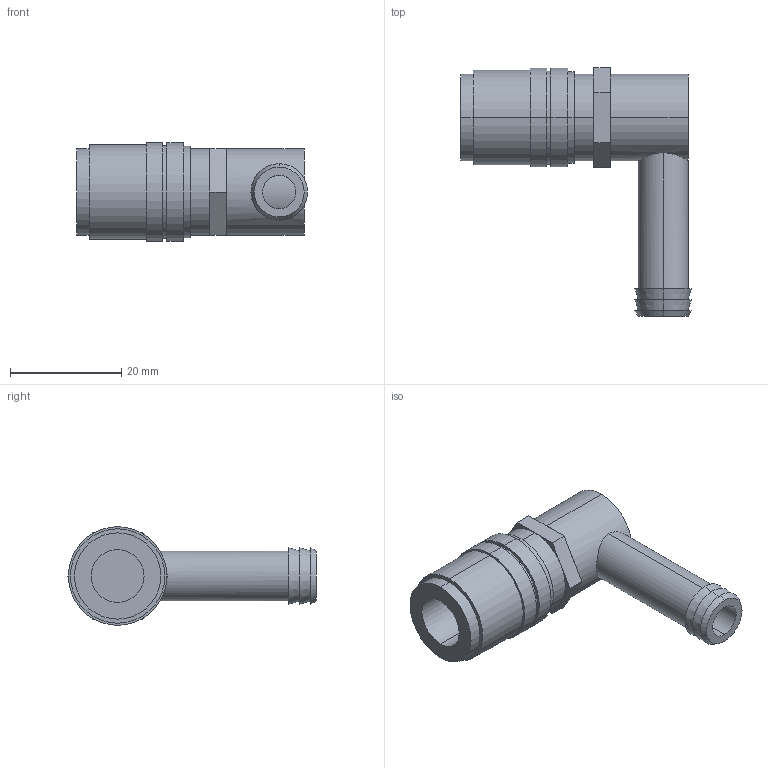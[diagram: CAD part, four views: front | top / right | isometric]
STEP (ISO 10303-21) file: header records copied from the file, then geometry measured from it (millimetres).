
FILE_DESCRIPTION (( 'STEP AP214' ), '1' );
FILE_NAME ('BR802-09-90.STEP', '2020-06-23T09:26:21', ( '' ), ( '' ), 'SwSTEP 2.0', 'SolidWorks 2018', '' );
FILE_SCHEMA (( 'AUTOMOTIVE_DESIGN' ));
Length unit declared in the file: millimetre
Products named in the file (1): BR802-09-90
Bounding box: 41.59 x 44.78 x 17.76 mm (x, y, z)
Volume: 7763.7 mm3; surface area: 4924.9 mm2
Topology: 1 solids, 1 shells, 50 faces, 104 edges, 69 vertices
Faces by surface type: cylinder 23, plane 21, cone 6
Entity records: 1514 total; most frequent: CARTESIAN_POINT 361, DIRECTION 254, ORIENTED_EDGE 208, EDGE_CURVE 104, AXIS2_PLACEMENT_3D 104, VERTEX_POINT 69, EDGE_LOOP 63, CIRCLE 53
